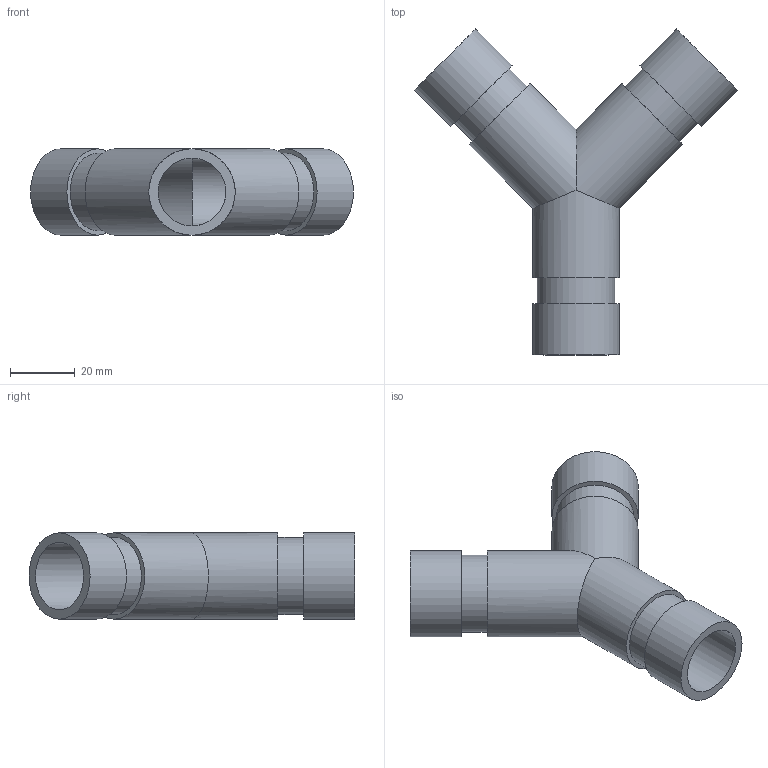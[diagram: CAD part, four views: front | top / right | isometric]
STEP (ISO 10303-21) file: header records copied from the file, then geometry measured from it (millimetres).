
FILE_DESCRIPTION(/* description */ ('This is default description.','CAx-IF Rec.Pracs.---Representation and Presentation of Product Manufacturing Information (PMI)---4.0---2014-10-13'),/* implementation_level */ '2;1');
FILE_NAME(/* name */ 'C:\Users\kkamble\AppData\Roaming\Autodesk\ApplicationPlugins\Back Up\Victaulic_IPS-Tee- Wye_ No 33 SWS (OGS)\Victaulic_IPS-Tee- Wye_ No 33 SWS (OGS)_0.75.stp',/* time_stamp */ '2020-09-16T22:07:38+06:00',/* author */ ('cgray'),/* organization */ ('Victaulic'),/* preprocessor_version */ 'ST-DEVELOPER v17.2',/* originating_system */ 'Autodesk Inventor 2019',/* authorisation */ '');
FILE_SCHEMA (('AP242_MANAGED_MODEL_BASED_3D_ENGINEERING_MIM_LF { 1 0 10303 442 1 1 4 }'));
Length unit declared in the file: inch
Products named in the file (1): 33 SWS-0.75
Bounding box: 99.68 x 100.64 x 26.67 mm (x, y, z)
Volume: 29753 mm3; surface area: 23694.9 mm2
Topology: 1 solids, 1 shells, 21 faces, 48 edges, 34 vertices
Faces by surface type: cylinder 12, plane 9
Full cylindrical faces by diameter (mm): 20.93 x3, 23.825 x3, 26.67 x6
Entity records: 787 total; most frequent: DIRECTION 154, CARTESIAN_POINT 121, ORIENTED_EDGE 96, AXIS2_PLACEMENT_3D 71, EDGE_CURVE 48, VERTEX_POINT 34, EDGE_LOOP 30, CIRCLE 26
